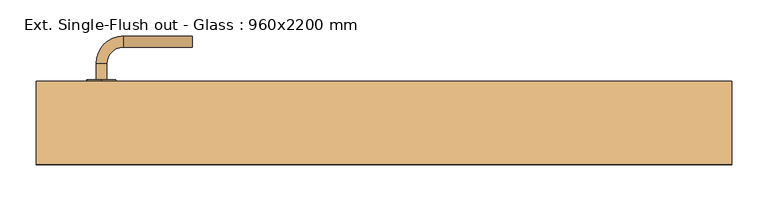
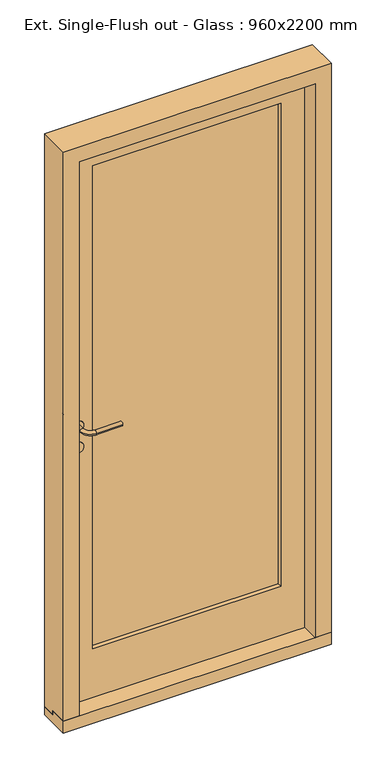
"""IFC4 building model written with IfcOpenShell, lengths in millimetres: door geometry, Ext. Single-Flush out - Glass : 960x2200 mm."""

from ifc_helpers import new_model, si_unit, point, frame, frame_2d, origin, place, context, project, spatial, polyline, circle_curve, ellipse_curve, trimmed, segment, composite_curve, outline, extrude, faceted_brep, source, transform, mapped, element, save
from ifc_brep_helpers import plane_surface, cylinder_surface, revolved_surface, advanced_brep


def ext_single_flush_out_glass_960x2200_mm_6190eac3(model_context):
    return source(origin(), model_context, "Body", "SolidModel", [
        extrude(outline(composite_curve([segment(trimmed(circle_curve(frame_2d((1090.0, -390.0)), 20.0), [point((1070.0, -390.0))], [point((1110.0, -390.0))], False, "CARTESIAN"), True, "CONTINUOUS"), segment(trimmed(circle_curve(frame_2d((1090.0, -390.0)), 20.0), [point((1110.0, -390.0))], [point((1070.0, -390.0))], False, "CARTESIAN"), True, "CONTINUOUS")], self_intersect=False)), frame((0.0, 190.0, 0.0), z_axis=(0.0, 1.0, 0.0), x_axis=(0.0, 0.0, 1.0)), (0.0, 0.0, 1.0), 2.0),
        advanced_brep(
        [(-397.5, 192.0, 1090.0), (-382.5, 192.0, 1090.0), (-397.5, 214.5, 1090.0), (-382.5, 214.5, 1090.0), (-360.0, 237.0, 1090.0), (-360.0, 252.0, 1090.0), (-265.0, 252.0, 1090.0), (-265.0, 237.0, 1090.0)],
        [
            (0, 1, circle_curve(frame((-390.0, 192.0, 1090.0), z_axis=(0.0, -1.0, 0.0), x_axis=(1.0, 0.0, 0.0)), 7.5)),
            (1, 0, circle_curve(frame((-390.0, 192.0, 1090.0), z_axis=(0.0, -1.0, 0.0), x_axis=(1.0, 0.0, 0.0)), 7.5)),
            (0, 2),
            (2, 3, circle_curve(frame((-390.0, 214.5, 1090.0), z_axis=(0.0, -1.0, 0.0), x_axis=(1.0, 0.0, 0.0)), 7.5)),
            (3, 1),
            (3, 2, circle_curve(frame((-390.0, 214.5, 1090.0), z_axis=(0.0, -1.0, 0.0), x_axis=(1.0, 0.0, 0.0)), 7.5)),
            (4, 3, circle_curve(frame((-360.0, 214.5, 1090.0), z_axis=(0.0, 0.0, 1.0), x_axis=(-1.0, 0.0, 0.0)), 22.5)),
            (2, 5, circle_curve(frame((-360.0, 214.5, 1090.0), z_axis=(0.0, 0.0, -1.0), x_axis=(-1.0, 0.0, 0.0)), 37.5)),
            (5, 4, circle_curve(frame((-360.0, 244.5, 1090.0), z_axis=(-1.0, 0.0, 0.0), x_axis=(0.0, -1.0, 0.0)), 7.5)),
            (4, 5, circle_curve(frame((-360.0, 244.5, 1090.0), z_axis=(-1.0, 0.0, 0.0), x_axis=(0.0, -1.0, 0.0)), 7.5)),
            (5, 6),
            (6, 7, circle_curve(frame((-265.0, 244.5, 1090.0), z_axis=(-1.0, 0.0, 0.0), x_axis=(0.0, -1.0, 0.0)), 7.5)),
            (7, 4),
            (7, 6, circle_curve(frame((-265.0, 244.5, 1090.0), z_axis=(-1.0, 0.0, 0.0), x_axis=(0.0, -1.0, 0.0)), 7.5)),
        ],
        [
            plane_surface(frame((-390.0, 192.0, 1090.0), z_axis=(0.0, -1.0, 0.0), x_axis=(0.0, 0.0, -1.0))),
            cylinder_surface(frame((-390.0, 192.0, 1090.0), z_axis=(0.0, -1.0, 0.0), x_axis=(1.0, 0.0, 0.0)), 7.5),
            revolved_surface(trimmed(ellipse_curve(frame((-390.0, 214.5, 1090.0), z_axis=(0.0, -1.0, 0.0), x_axis=(1.0, 0.0, 0.0)), 7.5, 7.5), [point((-397.5, 214.5, 1090.0))], [point((-382.5, 214.5, 1090.0))], True, "CARTESIAN"), (-360.0, 214.5, 1090.0), (0.0, 0.0, -1.0)),
            revolved_surface(trimmed(ellipse_curve(frame((-390.0, 214.5, 1090.0), z_axis=(0.0, -1.0, 0.0), x_axis=(1.0, 0.0, 0.0)), 7.5, 7.5), [point((-382.5, 214.5, 1090.0))], [point((-397.5, 214.5, 1090.0))], True, "CARTESIAN"), (-360.0, 214.5, 1090.0), (0.0, 0.0, -1.0)),
            cylinder_surface(frame((-360.0, 244.5, 1090.0), z_axis=(-1.0, 0.0, 0.0), x_axis=(0.0, -1.0, 0.0)), 7.5),
            plane_surface(frame((-265.0, 244.5, 1090.0), z_axis=(1.0, 0.0, 0.0), x_axis=(0.0, 0.0, -1.0))),
        ],
        [
            (0, [[1, 2]]),
            (1, [[-1, 3, 4, 5]]),
            (1, [[-2, -5, 6, -3]]),
            (2, [[7, -4, 8, 9]]),
            (3, [[-8, -6, -7, 10]]),
            (4, [[-9, 11, 12, 13]]),
            (4, [[-10, -13, 14, -11]]),
            (5, [[-14, -12]]),
        ],
    ),
        extrude(outline(composite_curve([segment(trimmed(circle_curve(frame_2d((1010.0, -390.0)), 20.0), [point((990.0, -390.0))], [point((1030.0, -390.0))], False, "CARTESIAN"), True, "CONTINUOUS"), segment(trimmed(circle_curve(frame_2d((1010.0, -390.0)), 20.0), [point((1030.0, -390.0))], [point((990.0, -390.0))], False, "CARTESIAN"), True, "CONTINUOUS")], self_intersect=False), holes=[composite_curve([segment(trimmed(circle_curve(frame_2d((1015.0, -390.0)), 3.0), [point((1012.4019238, -391.5))], [point((1012.4019238, -388.5))], True, "CARTESIAN"), True, "CONTINUOUS"), segment(polyline([(1012.4019238, -388.5), (1000.0, -388.5), (1000.0, -391.5), (1012.4019238, -391.5)]), True, "CONTINUOUS")], self_intersect=False)]), frame((0.0, 190.0, 0.0), z_axis=(0.0, 1.0, 0.0), x_axis=(0.0, 0.0, 1.0)), (0.0, 0.0, 1.0), 2.0),
        extrude(outline(composite_curve([segment(trimmed(circle_curve(frame_2d((1090.0, -390.0)), 20.0), [point((1070.0, -390.0))], [point((1110.0, -390.0))], False, "CARTESIAN"), True, "CONTINUOUS"), segment(trimmed(circle_curve(frame_2d((1090.0, -390.0)), 20.0), [point((1110.0, -390.0))], [point((1070.0, -390.0))], False, "CARTESIAN"), True, "CONTINUOUS")], self_intersect=False)), frame((0.0, 138.0, 0.0), z_axis=(0.0, 1.0, 0.0), x_axis=(0.0, 0.0, 1.0)), (0.0, 0.0, 1.0), 2.0),
        advanced_brep(
        [(-397.5, 138.0, 1090.0), (-382.5, 138.0, 1090.0), (-382.5, 115.5, 1090.0), (-397.5, 115.5, 1090.0), (-360.0, 93.0, 1090.0), (-360.0, 78.0, 1090.0), (-265.0, 93.0, 1090.0), (-265.0, 78.0, 1090.0)],
        [
            (0, 1, circle_curve(frame((-390.0, 138.0, 1090.0), z_axis=(0.0, 1.0, 0.0), x_axis=(1.0, 0.0, 0.0)), 7.5)),
            (1, 0, circle_curve(frame((-390.0, 138.0, 1090.0), z_axis=(0.0, 1.0, 0.0), x_axis=(1.0, 0.0, 0.0)), 7.5)),
            (1, 2),
            (2, 3, circle_curve(frame((-390.0, 115.5, 1090.0), z_axis=(0.0, 1.0, 0.0), x_axis=(1.0, 0.0, 0.0)), 7.5)),
            (3, 0),
            (3, 2, circle_curve(frame((-390.0, 115.5, 1090.0), z_axis=(0.0, 1.0, 0.0), x_axis=(1.0, 0.0, 0.0)), 7.5)),
            (4, 5, circle_curve(frame((-360.0, 85.5, 1090.0), z_axis=(-1.0, 0.0, 0.0), x_axis=(0.0, 1.0, 0.0)), 7.5)),
            (5, 3, circle_curve(frame((-360.0, 115.5, 1090.0), z_axis=(0.0, 0.0, -1.0), x_axis=(-1.0, 0.0, 0.0)), 37.5)),
            (2, 4, circle_curve(frame((-360.0, 115.5, 1090.0), z_axis=(0.0, 0.0, 1.0), x_axis=(-1.0, 0.0, 0.0)), 22.5)),
            (5, 4, circle_curve(frame((-360.0, 85.5, 1090.0), z_axis=(-1.0, 0.0, 0.0), x_axis=(0.0, 1.0, 0.0)), 7.5)),
            (4, 6),
            (6, 7, circle_curve(frame((-265.0, 85.5, 1090.0), z_axis=(-1.0, 0.0, 0.0), x_axis=(0.0, 1.0, 0.0)), 7.5)),
            (7, 5),
            (7, 6, circle_curve(frame((-265.0, 85.5, 1090.0), z_axis=(-1.0, 0.0, 0.0), x_axis=(0.0, 1.0, 0.0)), 7.5)),
        ],
        [
            plane_surface(frame((-390.0, 138.0, 1090.0), z_axis=(0.0, 1.0, 0.0), x_axis=(0.0, 0.0, -1.0))),
            cylinder_surface(frame((-390.0, 138.0, 1090.0), z_axis=(0.0, 1.0, 0.0), x_axis=(1.0, 0.0, 0.0)), 7.5),
            revolved_surface(trimmed(ellipse_curve(frame((-390.0, 115.5, 1090.0), z_axis=(0.0, -1.0, 0.0), x_axis=(1.0, 0.0, 0.0)), 7.5, 7.5), [point((-397.5, 115.5, 1090.0))], [point((-382.5, 115.5, 1090.0))], True, "CARTESIAN"), (-360.0, 115.5, 1090.0), (0.0, 0.0, -1.0)),
            revolved_surface(trimmed(ellipse_curve(frame((-390.0, 115.5, 1090.0), z_axis=(0.0, -1.0, 0.0), x_axis=(1.0, 0.0, 0.0)), 7.5, 7.5), [point((-382.5, 115.5, 1090.0))], [point((-397.5, 115.5, 1090.0))], True, "CARTESIAN"), (-360.0, 115.5, 1090.0), (0.0, 0.0, -1.0)),
            cylinder_surface(frame((-360.0, 85.5, 1090.0), z_axis=(-1.0, 0.0, 0.0), x_axis=(0.0, 1.0, 0.0)), 7.5),
            plane_surface(frame((-265.0, 85.5, 1090.0), z_axis=(1.0, 0.0, 0.0), x_axis=(0.0, 0.0, -1.0))),
        ],
        [
            (0, [[1, 2]]),
            (1, [[3, 4, 5, -2]]),
            (1, [[-5, 6, -3, -1]]),
            (2, [[7, 8, -4, 9]]),
            (3, [[10, -9, -6, -8]]),
            (4, [[11, 12, 13, -7]]),
            (4, [[-13, 14, -11, -10]]),
            (5, [[-12, -14]]),
        ],
    ),
        extrude(outline(composite_curve([segment(trimmed(circle_curve(frame_2d((1010.0, -390.0)), 20.0), [point((990.0, -390.0))], [point((1030.0, -390.0))], False, "CARTESIAN"), True, "CONTINUOUS"), segment(trimmed(circle_curve(frame_2d((1010.0, -390.0)), 20.0), [point((1030.0, -390.0))], [point((990.0, -390.0))], False, "CARTESIAN"), True, "CONTINUOUS")], self_intersect=False), holes=[composite_curve([segment(trimmed(circle_curve(frame_2d((1015.0, -390.0)), 3.0), [point((1012.4019238, -391.5))], [point((1012.4019238, -388.5))], True, "CARTESIAN"), True, "CONTINUOUS"), segment(polyline([(1012.4019238, -388.5), (1000.0, -388.5), (1000.0, -391.5), (1012.4019238, -391.5)]), True, "CONTINUOUS")], self_intersect=False)]), frame((0.0, 138.0, 0.0), z_axis=(0.0, 1.0, 0.0), x_axis=(0.0, 0.0, 1.0)), (0.0, 0.0, 1.0), 2.0),
        extrude(outline(polyline([(140.0, 45.0), (140.0, 30.0), (190.0, 30.0), (190.0, 0.0), (75.0, 0.0), (75.0, 45.0), (140.0, 45.0)])), frame((-480.0, 0.0, 0.0), z_axis=(1.0, 0.0, 0.0), x_axis=(0.0, 1.0, 0.0)), (0.0, 0.0, 1.0), 960.0),
        extrude(outline(polyline([(338.0, 156.6666667), (-338.0, 156.6666667), (-338.0, 173.3333333), (338.0, 173.3333333), (338.0, 156.6666667)])), frame((0.0, 0.0, 230.0), z_axis=(0.0, 0.0, 1.0), x_axis=(1.0, 0.0, 0.0)), (0.0, 0.0, 1.0), 1828.0),
        extrude(outline(polyline([(2158.0, -438.0), (30.0, -438.0), (30.0, 438.0), (2158.0, 438.0), (2158.0, -438.0)]), holes=[polyline([(2058.0, -338.0), (2058.0, 338.0), (230.0, 338.0), (230.0, -338.0), (2058.0, -338.0)])]), frame((0.0, 140.0, 0.0), z_axis=(0.0, 1.0, 0.0), x_axis=(0.0, 0.0, 1.0)), (0.0, 0.0, 1.0), 50.0),
        faceted_brep([(-438.0, 140.0, 2158.0), (438.0, 140.0, 2158.0), (438.0, 140.0, 45.0), (423.0, 140.0, 45.0), (423.0, 140.0, 2143.0), (-423.0, 140.0, 2143.0), (-423.0, 140.0, 45.0), (-438.0, 140.0, 45.0), (-438.0, 190.0, 2158.0), (-438.0, 140.0, 30.0), (-438.0, 190.0, 30.0), (-480.0, 140.0, 45.0), (-480.0, 140.0, 30.0), (480.0, 140.0, 45.0), (438.0, 140.0, 30.0), (480.0, 140.0, 30.0), (-480.0, 190.0, 30.0), (438.0, 190.0, 30.0), (480.0, 190.0, 30.0), (-480.0, 190.0, 2200.0), (480.0, 190.0, 2200.0), (438.0, 190.0, 2158.0), (-423.0, 75.0, 45.0), (-480.0, 75.0, 45.0), (480.0, 75.0, 45.0), (423.0, 75.0, 45.0), (423.0, 75.0, 2143.0), (-423.0, 75.0, 2143.0), (480.0, 75.0, 2200.0), (-480.0, 75.0, 2200.0)], [[[0, 1, 2, 3, 4, 5, 6, 7]], [[8, 0, 7, 9, 10]], [[7, 11, 12, 9]], [[13, 2, 14, 15]], [[9, 12, 16, 10]], [[15, 14, 17, 18]], [[19, 20, 18, 17, 21, 8, 10, 16]], [[1, 21, 17, 14, 2]], [[11, 7, 6, 22, 23]], [[2, 13, 24, 25, 3]], [[26, 4, 3, 25]], [[5, 27, 22, 6]], [[27, 26, 25, 24, 28, 29, 23, 22]], [[20, 28, 24, 13, 15, 18]], [[29, 19, 16, 12, 11, 23]], [[0, 8, 21, 1]], [[5, 4, 26, 27]], [[29, 28, 20, 19]]]),
    ])


if __name__ == "__main__":
    model = new_model("IFC4")
    model_context = context("Model", 3, world=origin())
    ifc_project = project(units=[si_unit("LENGTHUNIT", "METRE", prefix="MILLI")], contexts=[model_context])
    site = spatial("IfcSite", under=ifc_project)
    building = spatial("IfcBuilding", under=site)
    placement = place(None, origin())
    ext_single_flush_out_glass_960x2200_mm_shape = ext_single_flush_out_glass_960x2200_mm_6190eac3(model_context)
    element("IfcDoor", 1, ObjectType="Ext. Single-Flush out - Glass : 960x2200 mm", at=placement, inside=building, context=model_context, shape_type="MappedRepresentation", body=[
        mapped(ext_single_flush_out_glass_960x2200_mm_shape, transform((0.0, 0.0, 0.0), x_axis=(1.0, 0.0, 0.0), y_axis=(0.0, 1.0, 0.0), z_axis=(0.0, 0.0, 1.0))),
    ])
    save(model, "model.ifc")
